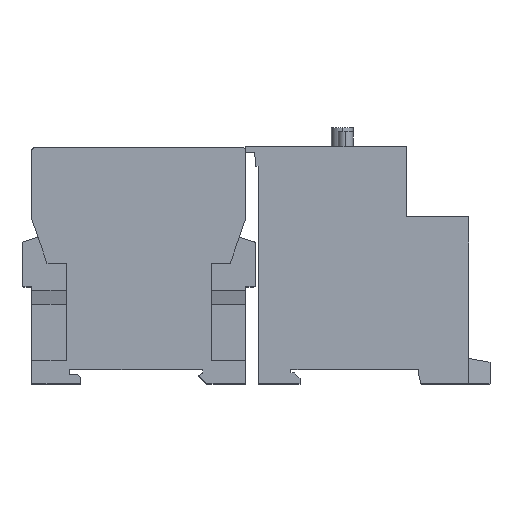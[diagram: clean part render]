
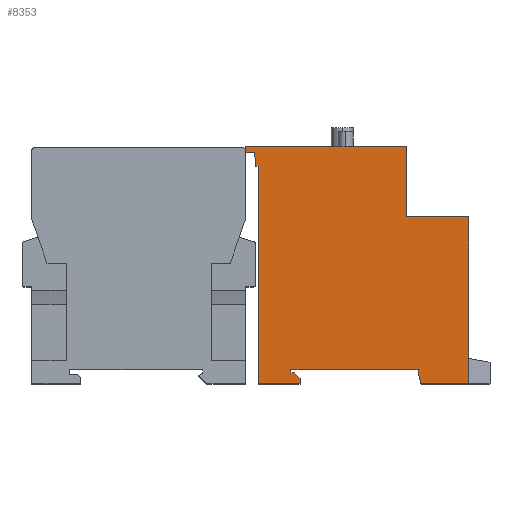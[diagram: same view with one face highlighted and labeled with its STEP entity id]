
A CAD part, top view. The second image highlights one B-rep face of the part: STEP entity #8353.
In plain terms, the highlighted planar face has unit normal (0, 0, 1).
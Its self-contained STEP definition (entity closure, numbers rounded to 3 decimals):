
#41 = EDGE_CURVE ( 'NONE', #7518, #10578, #2176, .T. ) ;
#45 = DIRECTION ( 'NONE',  ( -1., 0., 0. ) ) ;
#178 = VECTOR ( 'NONE', #265, 1000. ) ;
#181 = VERTEX_POINT ( 'NONE', #8900 ) ;
#246 = VERTEX_POINT ( 'NONE', #7066 ) ;
#261 = DIRECTION ( 'NONE',  ( -1., 0., 0. ) ) ;
#265 = DIRECTION ( 'NONE',  ( -0.259, 0.966, 0. ) ) ;
#321 = CARTESIAN_POINT ( 'NONE',  ( 77.35, 2.4, 22.5 ) ) ;
#374 = CARTESIAN_POINT ( 'NONE',  ( 42.05, 4., 22.5 ) ) ;
#387 = LINE ( 'NONE', #2652, #8955 ) ;
#439 = EDGE_CURVE ( 'NONE', #246, #5561, #6821, .T. ) ;
#677 = ORIENTED_EDGE ( 'NONE', *, *, #9973, .F. ) ;
#870 = VERTEX_POINT ( 'NONE', #7565 ) ;
#903 = DIRECTION ( 'NONE',  ( 0., -1., 0. ) ) ;
#1022 = CARTESIAN_POINT ( 'NONE',  ( 91.2, 7.023, 22.5 ) ) ;
#1050 = VERTEX_POINT ( 'NONE', #2156 ) ;
#1146 = VERTEX_POINT ( 'NONE', #1740 ) ;
#1164 = EDGE_CURVE ( 'NONE', #5456, #6727, #10020, .T. ) ;
#1172 = DIRECTION ( 'NONE',  ( 0., 1., 0. ) ) ;
#1199 = CARTESIAN_POINT ( 'NONE',  ( 77.35, 30.323, 22.5 ) ) ;
#1393 = DIRECTION ( 'NONE',  ( 0., -1., 0. ) ) ;
#1498 = VECTOR ( 'NONE', #1626, 1000. ) ;
#1519 = LINE ( 'NONE', #1022, #9785 ) ;
#1558 = VECTOR ( 'NONE', #903, 1000. ) ;
#1626 = DIRECTION ( 'NONE',  ( 1., 0., 0. ) ) ;
#1712 = ORIENTED_EDGE ( 'NONE', *, *, #9644, .F. ) ;
#1740 = CARTESIAN_POINT ( 'NONE',  ( 32.009, 64., 22.5 ) ) ;
#1887 = LINE ( 'NONE', #3062, #6313 ) ;
#1934 = DIRECTION ( 'NONE',  ( -0.087, 0.996, 0. ) ) ;
#2053 = VERTEX_POINT ( 'NONE', #4897 ) ;
#2156 = CARTESIAN_POINT ( 'NONE',  ( 91.2, 46.1, 22.5 ) ) ;
#2176 = LINE ( 'NONE', #321, #178 ) ;
#2319 = VECTOR ( 'NONE', #2493, 1000. ) ;
#2435 = LINE ( 'NONE', #3467, #8749 ) ;
#2461 = EDGE_CURVE ( 'NONE', #9748, #9015, #7918, .T. ) ;
#2493 = DIRECTION ( 'NONE',  ( 0., 1., 0. ) ) ;
#2494 = DIRECTION ( 'NONE',  ( -1., 0., 0. ) ) ;
#2513 = DIRECTION ( 'NONE',  ( 0., -1., 0. ) ) ;
#2596 = VECTOR ( 'NONE', #3498, 1000. ) ;
#2645 = VECTOR ( 'NONE', #2494, 1000. ) ;
#2652 = CARTESIAN_POINT ( 'NONE',  ( 29.5, 30.323, 22.5 ) ) ;
#2685 = CARTESIAN_POINT ( 'NONE',  ( 61.13, 30.323, 22.5 ) ) ;
#2702 = VECTOR ( 'NONE', #9827, 1000. ) ;
#2715 = LINE ( 'NONE', #9735, #7344 ) ;
#2866 = LINE ( 'NONE', #3600, #2596 ) ;
#3062 = CARTESIAN_POINT ( 'NONE',  ( 44.55, 1.5, 22.5 ) ) ;
#3122 = LINE ( 'NONE', #10238, #3381 ) ;
#3159 = CARTESIAN_POINT ( 'NONE',  ( 73.9, 65.4, 22.5 ) ) ;
#3338 = EDGE_CURVE ( 'NONE', #9748, #10578, #6257, .T. ) ;
#3381 = VECTOR ( 'NONE', #1172, 1000. ) ;
#3426 = LINE ( 'NONE', #8171, #7775 ) ;
#3467 = CARTESIAN_POINT ( 'NONE',  ( 33., 0., 22.5 ) ) ;
#3498 = DIRECTION ( 'NONE',  ( 1., 0., 0. ) ) ;
#3533 = DIRECTION ( 'NONE',  ( 0., -1., 0. ) ) ;
#3600 = CARTESIAN_POINT ( 'NONE',  ( 73.9, 65.4, 22.5 ) ) ;
#3609 = CARTESIAN_POINT ( 'NONE',  ( 33., 60.1, 22.5 ) ) ;
#3717 = EDGE_LOOP ( 'NONE', ( #9469, #3976, #7283, #6643, #10553, #9548, #7860, #7231, #6192, #6632, #10107, #5992, #5597, #1712, #5842, #677, #9333, #8120 ) ) ;
#3844 = EDGE_CURVE ( 'NONE', #870, #7518, #6278, .T. ) ;
#3882 = VECTOR ( 'NONE', #8848, 1000. ) ;
#3976 = ORIENTED_EDGE ( 'NONE', *, *, #3338, .T. ) ;
#3981 = CARTESIAN_POINT ( 'NONE',  ( 73.9, 46.1, 22.5 ) ) ;
#4050 = EDGE_CURVE ( 'NONE', #7414, #10117, #3426, .T. ) ;
#4162 = VERTEX_POINT ( 'NONE', #8733 ) ;
#4163 = FACE_OUTER_BOUND ( 'NONE', #3717, .T. ) ;
#4165 = CARTESIAN_POINT ( 'NONE',  ( 42.05, 4., 22.5 ) ) ;
#4322 = EDGE_CURVE ( 'NONE', #5456, #1146, #5492, .T. ) ;
#4897 = CARTESIAN_POINT ( 'NONE',  ( 44.55, 1.5, 22.5 ) ) ;
#4973 = VERTEX_POINT ( 'NONE', #7996 ) ;
#5071 = LINE ( 'NONE', #6605, #2319 ) ;
#5150 = EDGE_CURVE ( 'NONE', #1146, #181, #7370, .T. ) ;
#5456 = VERTEX_POINT ( 'NONE', #8458 ) ;
#5492 = LINE ( 'NONE', #6892, #9569 ) ;
#5561 = VERTEX_POINT ( 'NONE', #5750 ) ;
#5597 = ORIENTED_EDGE ( 'NONE', *, *, #8996, .F. ) ;
#5642 = CARTESIAN_POINT ( 'NONE',  ( 29.5, 64., 22.5 ) ) ;
#5673 = EDGE_CURVE ( 'NONE', #4973, #7414, #2866, .T. ) ;
#5750 = CARTESIAN_POINT ( 'NONE',  ( 42.05, 3., 22.5 ) ) ;
#5828 = EDGE_CURVE ( 'NONE', #1050, #870, #1519, .T. ) ;
#5842 = ORIENTED_EDGE ( 'NONE', *, *, #8491, .T. ) ;
#5921 = EDGE_CURVE ( 'NONE', #10117, #1050, #2715, .T. ) ;
#5990 = PLANE ( 'NONE',  #6723 ) ;
#5992 = ORIENTED_EDGE ( 'NONE', *, *, #1164, .T. ) ;
#6026 = EDGE_CURVE ( 'NONE', #5561, #9015, #6335, .T. ) ;
#6096 = CARTESIAN_POINT ( 'NONE',  ( 77.35, 4., 22.5 ) ) ;
#6192 = ORIENTED_EDGE ( 'NONE', *, *, #6780, .T. ) ;
#6257 = LINE ( 'NONE', #1199, #1558 ) ;
#6278 = LINE ( 'NONE', #8234, #2645 ) ;
#6313 = VECTOR ( 'NONE', #9611, 1000. ) ;
#6335 = LINE ( 'NONE', #9064, #3882 ) ;
#6421 = DIRECTION ( 'NONE',  ( 1., 0., 0. ) ) ;
#6605 = CARTESIAN_POINT ( 'NONE',  ( 33., 60.1, 22.5 ) ) ;
#6632 = ORIENTED_EDGE ( 'NONE', *, *, #5150, .F. ) ;
#6643 = ORIENTED_EDGE ( 'NONE', *, *, #3844, .F. ) ;
#6723 = AXIS2_PLACEMENT_3D ( 'NONE', #2685, #8444, #3533 ) ;
#6727 = VERTEX_POINT ( 'NONE', #3609 ) ;
#6780 = EDGE_CURVE ( 'NONE', #4973, #181, #387, .T. ) ;
#6821 = LINE ( 'NONE', #9791, #2702 ) ;
#6892 = CARTESIAN_POINT ( 'NONE',  ( 32.009, 64., 22.5 ) ) ;
#7066 = CARTESIAN_POINT ( 'NONE',  ( 43.05, 3., 22.5 ) ) ;
#7231 = ORIENTED_EDGE ( 'NONE', *, *, #5673, .F. ) ;
#7283 = ORIENTED_EDGE ( 'NONE', *, *, #41, .F. ) ;
#7344 = VECTOR ( 'NONE', #6421, 1000. ) ;
#7370 = LINE ( 'NONE', #5642, #8792 ) ;
#7414 = VERTEX_POINT ( 'NONE', #3159 ) ;
#7518 = VERTEX_POINT ( 'NONE', #9861 ) ;
#7565 = CARTESIAN_POINT ( 'NONE',  ( 91.2, 0., 22.5 ) ) ;
#7653 = VECTOR ( 'NONE', #261, 1000. ) ;
#7775 = VECTOR ( 'NONE', #7821, 1000. ) ;
#7821 = DIRECTION ( 'NONE',  ( 0., -1., 0. ) ) ;
#7860 = ORIENTED_EDGE ( 'NONE', *, *, #4050, .F. ) ;
#7918 = LINE ( 'NONE', #374, #7653 ) ;
#7996 = CARTESIAN_POINT ( 'NONE',  ( 29.5, 65.4, 22.5 ) ) ;
#8120 = ORIENTED_EDGE ( 'NONE', *, *, #6026, .T. ) ;
#8171 = CARTESIAN_POINT ( 'NONE',  ( 73.9, 46.1, 22.5 ) ) ;
#8182 = CARTESIAN_POINT ( 'NONE',  ( 61.13, 60.1, 22.5 ) ) ;
#8234 = CARTESIAN_POINT ( 'NONE',  ( 77.993, 0., 22.5 ) ) ;
#8353 = ADVANCED_FACE ( 'NONE', ( #4163 ), #5990, .T. ) ;
#8378 = VERTEX_POINT ( 'NONE', #9298 ) ;
#8444 = DIRECTION ( 'NONE',  ( 0., 0., 1. ) ) ;
#8458 = CARTESIAN_POINT ( 'NONE',  ( 32.35, 60.1, 22.5 ) ) ;
#8491 = EDGE_CURVE ( 'NONE', #4162, #2053, #3122, .T. ) ;
#8733 = CARTESIAN_POINT ( 'NONE',  ( 44.55, 0., 22.5 ) ) ;
#8749 = VECTOR ( 'NONE', #45, 1000. ) ;
#8792 = VECTOR ( 'NONE', #8970, 1000. ) ;
#8848 = DIRECTION ( 'NONE',  ( 0., 1., 0. ) ) ;
#8900 = CARTESIAN_POINT ( 'NONE',  ( 29.5, 64., 22.5 ) ) ;
#8955 = VECTOR ( 'NONE', #2513, 1000. ) ;
#8970 = DIRECTION ( 'NONE',  ( -1., 0., 0. ) ) ;
#8996 = EDGE_CURVE ( 'NONE', #8378, #6727, #5071, .T. ) ;
#9015 = VERTEX_POINT ( 'NONE', #4165 ) ;
#9064 = CARTESIAN_POINT ( 'NONE',  ( 42.05, 30.323, 22.5 ) ) ;
#9298 = CARTESIAN_POINT ( 'NONE',  ( 33., 0., 22.5 ) ) ;
#9333 = ORIENTED_EDGE ( 'NONE', *, *, #439, .T. ) ;
#9469 = ORIENTED_EDGE ( 'NONE', *, *, #2461, .F. ) ;
#9548 = ORIENTED_EDGE ( 'NONE', *, *, #5921, .F. ) ;
#9569 = VECTOR ( 'NONE', #1934, 1000. ) ;
#9611 = DIRECTION ( 'NONE',  ( 0.707, -0.707, 0. ) ) ;
#9644 = EDGE_CURVE ( 'NONE', #4162, #8378, #2435, .T. ) ;
#9735 = CARTESIAN_POINT ( 'NONE',  ( 91.2, 46.1, 22.5 ) ) ;
#9748 = VERTEX_POINT ( 'NONE', #6096 ) ;
#9785 = VECTOR ( 'NONE', #1393, 1000. ) ;
#9791 = CARTESIAN_POINT ( 'NONE',  ( 61.13, 3., 22.5 ) ) ;
#9827 = DIRECTION ( 'NONE',  ( -1., 0., 0. ) ) ;
#9861 = CARTESIAN_POINT ( 'NONE',  ( 77.993, 0., 22.5 ) ) ;
#9973 = EDGE_CURVE ( 'NONE', #246, #2053, #1887, .T. ) ;
#10020 = LINE ( 'NONE', #8182, #1498 ) ;
#10107 = ORIENTED_EDGE ( 'NONE', *, *, #4322, .F. ) ;
#10117 = VERTEX_POINT ( 'NONE', #3981 ) ;
#10238 = CARTESIAN_POINT ( 'NONE',  ( 44.55, 30.323, 22.5 ) ) ;
#10246 = CARTESIAN_POINT ( 'NONE',  ( 77.35, 2.4, 22.5 ) ) ;
#10553 = ORIENTED_EDGE ( 'NONE', *, *, #5828, .F. ) ;
#10578 = VERTEX_POINT ( 'NONE', #10246 ) ;
